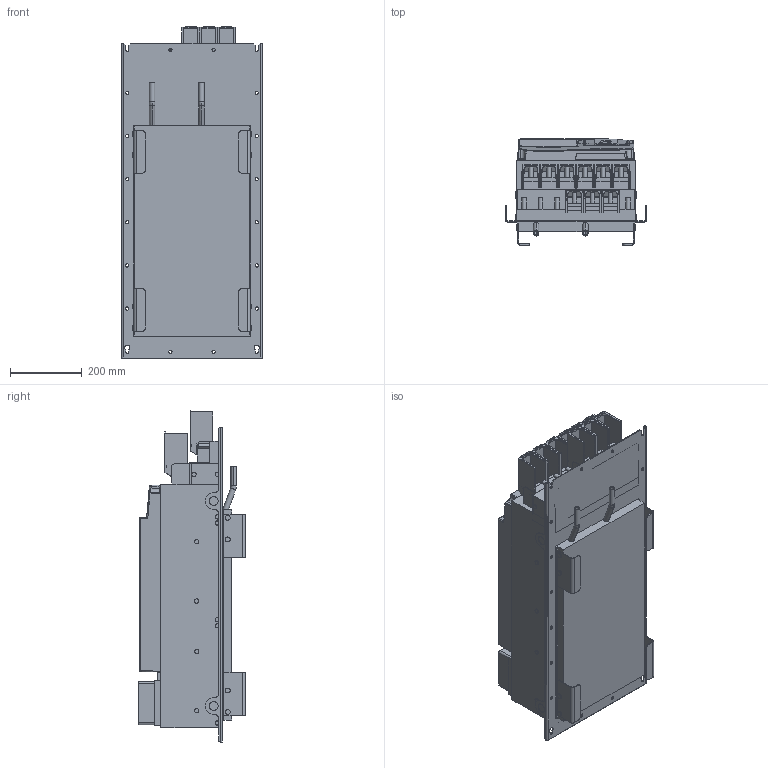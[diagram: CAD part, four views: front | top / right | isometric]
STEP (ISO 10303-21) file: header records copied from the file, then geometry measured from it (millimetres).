
FILE_DESCRIPTION (( 'STEP AP214' ), '1' );
FILE_NAME ('F6-8TW5-K000.STEP', '2021-03-10T15:09:19', ( '' ), ( '' ), 'SwSTEP 2.0', 'SolidWorks 2019', '' );
FILE_SCHEMA (( 'AUTOMOTIVE_DESIGN' ));
Length unit declared in the file: millimetre
Products named in the file (13): 10058413_000; 10063180_000; 10063199_000; 10038044_000_Kundemodell; F6-8TW5-K000; 10059764_000_Blindabdeckung (Kundenmodell); 10063936_000_F6-8 Leistungsteil TW5 (Kundenmodell); 10035735_000_Kundenmodell; 10047771_000_Kundenmodell; 10040552_000_Kundenmodell; 10063225_000; 10059765_000; 10063964_000
Assembly tree (12 placements, depth 4):
  F6-8TW5-K000
    10063936_000_F6-8 Leistungsteil TW5 (Kundenmodell)
      10038044_000_Kundemodell
        10063180_000
      10063964_000
    10040552_000_Kundenmodell
      10047771_000_Kundenmodell
        10063225_000
      10063199_000
    10035735_000_Kundenmodell
      10059764_000_Blindabdeckung (Kundenmodell)
        10059765_000
      10058413_000
Bounding box: 392 x 296.9 x 923.32 mm (x, y, z)
Volume: 61509825.2 mm3; surface area: 2879861.8 mm2
Topology: 6 solids, 30 shells, 2780 faces, 7078 edges, 4390 vertices
Faces by surface type: plane 1435, cylinder 835, bspline 213, sphere 154, cone 90, torus 53
Entity records: 89528 total; most frequent: CARTESIAN_POINT 23858, ORIENTED_EDGE 13934, DIRECTION 13040, EDGE_CURVE 6967, LINE 4408, VECTOR 4408, VERTEX_POINT 4387, AXIS2_PLACEMENT_3D 4316
